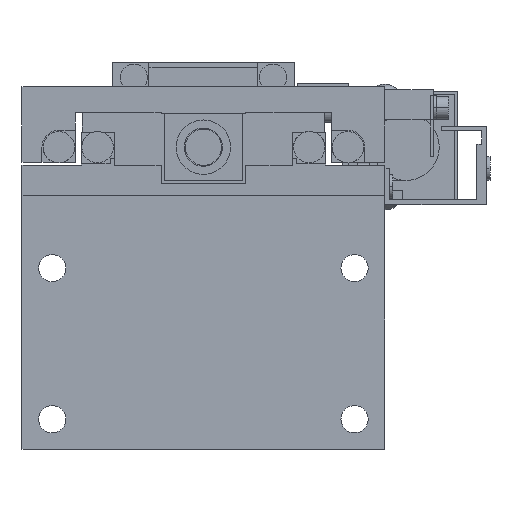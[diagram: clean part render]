
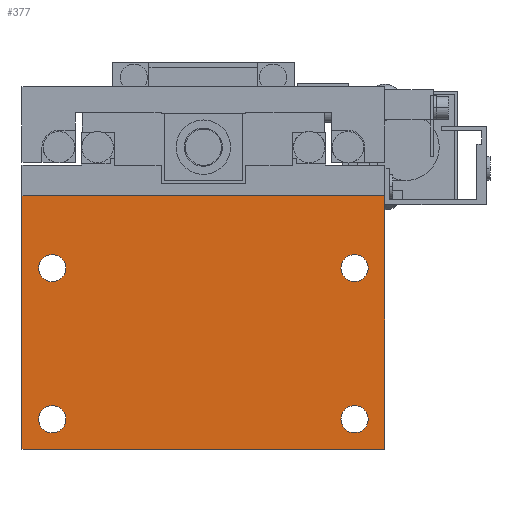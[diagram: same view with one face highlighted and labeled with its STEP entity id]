
A CAD part, front view. The second image highlights one B-rep face of the part: STEP entity #377.
In plain terms, the highlighted planar face has unit normal (0, -1, 0).
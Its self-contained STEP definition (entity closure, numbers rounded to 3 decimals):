
#377=ADVANCED_FACE('',(#1157,#1158,#1159,#1160,#1161),#1162,.F.);
#1157=FACE_BOUND('',#2817,.T.);
#1158=FACE_BOUND('',#2818,.T.);
#1159=FACE_BOUND('',#2819,.T.);
#1160=FACE_BOUND('',#2820,.T.);
#1161=FACE_OUTER_BOUND('',#2821,.T.);
#1162=PLANE('',#2822);
#2817=EDGE_LOOP('',(#4550,#4551));
#2818=EDGE_LOOP('',(#4552,#4553));
#2819=EDGE_LOOP('',(#4554,#4555));
#2820=EDGE_LOOP('',(#4556,#4557));
#2821=EDGE_LOOP('',(#4558,#4559,#4560,#4561));
#2822=AXIS2_PLACEMENT_3D('',#4562,#4563,#4564);
#4550=ORIENTED_EDGE('',*,*,#10734,.F.);
#4551=ORIENTED_EDGE('',*,*,#10685,.F.);
#4552=ORIENTED_EDGE('',*,*,#10735,.F.);
#4553=ORIENTED_EDGE('',*,*,#10717,.F.);
#4554=ORIENTED_EDGE('',*,*,#10736,.F.);
#4555=ORIENTED_EDGE('',*,*,#10725,.F.);
#4556=ORIENTED_EDGE('',*,*,#10737,.F.);
#4557=ORIENTED_EDGE('',*,*,#10721,.F.);
#4558=ORIENTED_EDGE('',*,*,#10738,.T.);
#4559=ORIENTED_EDGE('',*,*,#10739,.F.);
#4560=ORIENTED_EDGE('',*,*,#10740,.F.);
#4561=ORIENTED_EDGE('',*,*,#10731,.T.);
#4562=CARTESIAN_POINT('',(-30.0,0.0,-19.0));
#4563=DIRECTION('',(0.0,1.0,0.0));
#4564=DIRECTION('',(-1.0,0.0,0.0));
#10685=EDGE_CURVE('',#12690,#12686,#12692,.T.);
#10717=EDGE_CURVE('',#12754,#12750,#12756,.T.);
#10721=EDGE_CURVE('',#12762,#12758,#12764,.T.);
#10725=EDGE_CURVE('',#12770,#12766,#12772,.T.);
#10731=EDGE_CURVE('',#12784,#12782,#12785,.T.);
#10734=EDGE_CURVE('',#12686,#12690,#12789,.T.);
#10735=EDGE_CURVE('',#12750,#12754,#12790,.T.);
#10736=EDGE_CURVE('',#12766,#12770,#12791,.T.);
#10737=EDGE_CURVE('',#12758,#12762,#12792,.T.);
#10738=EDGE_CURVE('',#12782,#12793,#12794,.T.);
#10739=EDGE_CURVE('',#12795,#12793,#12796,.T.);
#10740=EDGE_CURVE('',#12784,#12795,#12797,.T.);
#12686=VERTEX_POINT('',#15921);
#12690=VERTEX_POINT('',#15926);
#12692=CIRCLE('',#15929,2.25);
#12750=VERTEX_POINT('',#16001);
#12754=VERTEX_POINT('',#16006);
#12756=CIRCLE('',#16009,2.25);
#12758=VERTEX_POINT('',#16011);
#12762=VERTEX_POINT('',#16016);
#12764=CIRCLE('',#16019,2.25);
#12766=VERTEX_POINT('',#16021);
#12770=VERTEX_POINT('',#16026);
#12772=CIRCLE('',#16029,2.25);
#12782=VERTEX_POINT('',#16041);
#12784=VERTEX_POINT('',#16044);
#12785=LINE('',#16045,#16046);
#12789=CIRCLE('',#16052,2.25);
#12790=CIRCLE('',#16053,2.25);
#12791=CIRCLE('',#16054,2.25);
#12792=CIRCLE('',#16055,2.25);
#12793=VERTEX_POINT('',#16056);
#12794=LINE('',#16057,#16058);
#12795=VERTEX_POINT('',#16059);
#12796=LINE('',#16060,#16061);
#12797=LINE('',#16062,#16063);
#15921=CARTESIAN_POINT('',(25.0,0.0,13.25));
#15926=CARTESIAN_POINT('',(25.0,0.0,8.75));
#15929=AXIS2_PLACEMENT_3D('',#20715,#20716,#20717);
#16001=CARTESIAN_POINT('',(-25.0,0.0,-11.75));
#16006=CARTESIAN_POINT('',(-25.0,0.0,-16.25));
#16009=AXIS2_PLACEMENT_3D('',#20779,#20780,#20781);
#16011=CARTESIAN_POINT('',(-25.0,0.0,13.25));
#16016=CARTESIAN_POINT('',(-25.0,0.0,8.75));
#16019=AXIS2_PLACEMENT_3D('',#20787,#20788,#20789);
#16021=CARTESIAN_POINT('',(25.0,0.0,-11.75));
#16026=CARTESIAN_POINT('',(25.0,0.0,-16.25));
#16029=AXIS2_PLACEMENT_3D('',#20795,#20796,#20797);
#16041=CARTESIAN_POINT('',(30.0,0.0,-19.0));
#16044=CARTESIAN_POINT('',(-30.0,0.0,-19.0));
#16045=CARTESIAN_POINT('',(-30.0,0.0,-19.0));
#16046=VECTOR('',#20807,1000.0);
#16052=AXIS2_PLACEMENT_3D('',#20810,#20811,#20812);
#16053=AXIS2_PLACEMENT_3D('',#20813,#20814,#20815);
#16054=AXIS2_PLACEMENT_3D('',#20816,#20817,#20818);
#16055=AXIS2_PLACEMENT_3D('',#20819,#20820,#20821);
#16056=CARTESIAN_POINT('',(30.0,0.0,23.0));
#16057=CARTESIAN_POINT('',(30.0,0.0,-19.0));
#16058=VECTOR('',#20822,1000.0);
#16059=CARTESIAN_POINT('',(-30.0,0.0,23.0));
#16060=CARTESIAN_POINT('',(-30.0,0.0,23.0));
#16061=VECTOR('',#20823,1000.0);
#16062=CARTESIAN_POINT('',(-30.0,0.0,-19.0));
#16063=VECTOR('',#20824,1000.0);
#20715=CARTESIAN_POINT('',(25.0,0.0,11.0));
#20716=DIRECTION('',(0.0,-1.0,0.0));
#20717=DIRECTION('',(0.0,0.0,1.0));
#20779=CARTESIAN_POINT('',(-25.0,0.0,-14.0));
#20780=DIRECTION('',(0.0,-1.0,0.0));
#20781=DIRECTION('',(0.0,0.0,1.0));
#20787=CARTESIAN_POINT('',(-25.0,0.0,11.0));
#20788=DIRECTION('',(0.0,-1.0,0.0));
#20789=DIRECTION('',(0.0,0.0,1.0));
#20795=CARTESIAN_POINT('',(25.0,0.0,-14.0));
#20796=DIRECTION('',(0.0,-1.0,0.0));
#20797=DIRECTION('',(0.0,0.0,1.0));
#20807=DIRECTION('',(1.0,0.0,0.0));
#20810=CARTESIAN_POINT('',(25.0,0.0,11.0));
#20811=DIRECTION('',(0.0,-1.0,0.0));
#20812=DIRECTION('',(0.0,0.0,1.0));
#20813=CARTESIAN_POINT('',(-25.0,0.0,-14.0));
#20814=DIRECTION('',(0.0,-1.0,0.0));
#20815=DIRECTION('',(0.0,0.0,1.0));
#20816=CARTESIAN_POINT('',(25.0,0.0,-14.0));
#20817=DIRECTION('',(0.0,-1.0,0.0));
#20818=DIRECTION('',(0.0,0.0,1.0));
#20819=CARTESIAN_POINT('',(-25.0,0.0,11.0));
#20820=DIRECTION('',(0.0,-1.0,0.0));
#20821=DIRECTION('',(0.0,0.0,1.0));
#20822=DIRECTION('',(0.0,0.0,1.0));
#20823=DIRECTION('',(1.0,0.0,0.0));
#20824=DIRECTION('',(0.0,0.0,1.0));
